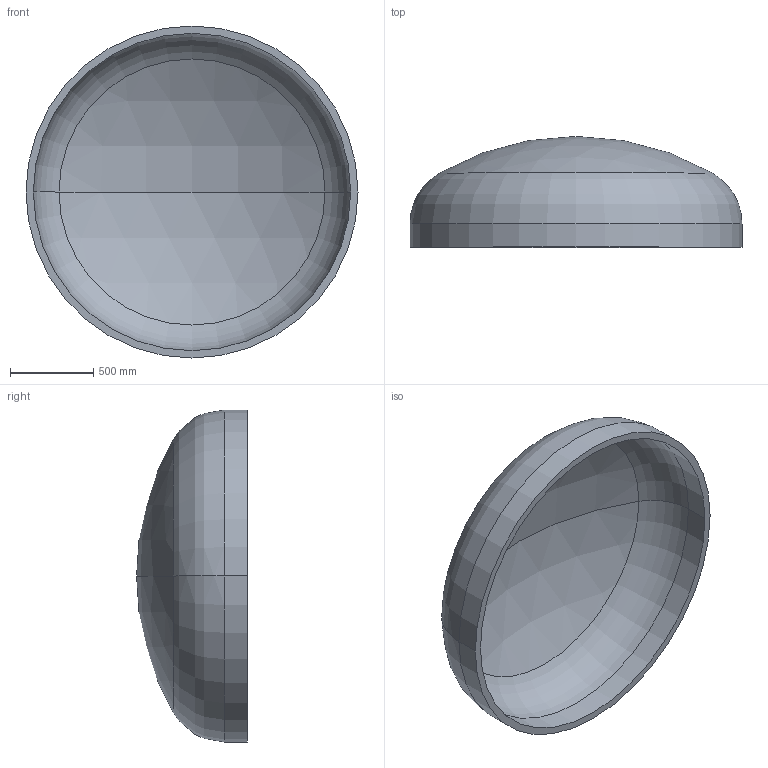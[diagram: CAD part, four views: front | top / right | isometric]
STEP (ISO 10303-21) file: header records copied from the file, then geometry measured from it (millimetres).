
FILE_DESCRIPTION (( 'STEP AP203' ), '1' );
FILE_NAME ('DIN 28013 Korbbogenform_-_Boden DIN 28013 - 2000 x 140 - I - s=44.step', '2016-07-01T13:53:22', ( '' ), ( '' ), 'SwSTEP 2.0', 'SolidWorks 2013', '' );
FILE_SCHEMA (( 'CONFIG_CONTROL_DESIGN' ));
Length unit declared in the file: millimetre
Products named in the file (1): DIN 28013 Korbbogenform_-_Boden DIN 28013 - 2000 x 140 - I - s=44
Bounding box: 2000 x 667.41 x 2000 mm (x, y, z)
Volume: 224082359.3 mm3; surface area: 10459991.5 mm2
Topology: 1 solids, 1 shells, 13 faces, 24 edges, 14 vertices
Faces by surface type: torus 4, cylinder 4, sphere 4, plane 1
Entity records: 407 total; most frequent: DIRECTION 72, CARTESIAN_POINT 52, ORIENTED_EDGE 48, AXIS2_PLACEMENT_3D 34, EDGE_CURVE 24, CIRCLE 20, EDGE_LOOP 14, VERTEX_POINT 14
